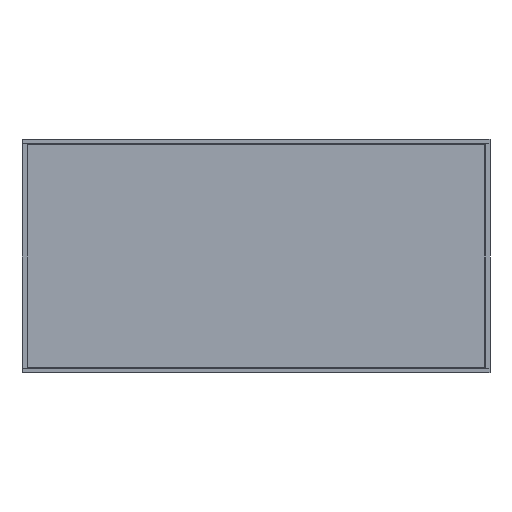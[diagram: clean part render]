
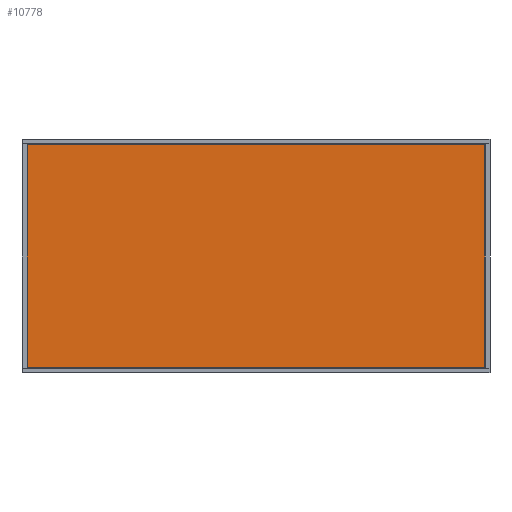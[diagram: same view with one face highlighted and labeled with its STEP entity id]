
A CAD part, left-side view. The second image highlights one B-rep face of the part: STEP entity #10778.
In plain terms, the highlighted planar face has unit normal (-1, 0, 0) as drawn and (0, -1, 0) by its records, which use the part's own axes.
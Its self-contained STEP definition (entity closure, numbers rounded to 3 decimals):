
#578=FACE_OUTER_BOUND($,#1134,.T.);
#1134=EDGE_LOOP($,(#8115,#8116,#8117,#8118));
#2080=LINE($,#15423,#3486);
#2088=LINE($,#15438,#3494);
#2089=LINE($,#15440,#3495);
#2090=LINE($,#15441,#3496);
#3486=VECTOR($,#12700,980.);
#3494=VECTOR($,#12712,980.);
#3495=VECTOR($,#12715,1980.);
#3496=VECTOR($,#12716,1980.);
#4706=VERTEX_POINT($,#15420);
#4707=VERTEX_POINT($,#15422);
#4711=VERTEX_POINT($,#15434);
#4712=VERTEX_POINT($,#15436);
#5948=EDGE_CURVE($,#4706,#4707,#2080,.T.);
#5956=EDGE_CURVE($,#4711,#4712,#2088,.T.);
#5957=EDGE_CURVE($,#4706,#4711,#2089,.T.);
#5958=EDGE_CURVE($,#4707,#4712,#2090,.T.);
#8115=ORIENTED_EDGE($,*,*,#5957,.T.);
#8116=ORIENTED_EDGE($,*,*,#5956,.T.);
#8117=ORIENTED_EDGE($,*,*,#5958,.F.);
#8118=ORIENTED_EDGE($,*,*,#5948,.F.);
#10307=PLANE($,#11357);
#10778=ADVANCED_FACE($,(#578),#10307,.T.);
#11357=AXIS2_PLACEMENT_3D($,#15439,#12713,#12714);
#12700=DIRECTION($,(0.,0.,1.));
#12712=DIRECTION($,(0.,0.,1.));
#12713=DIRECTION('center_axis',(0.,-1.,0.));
#12714=DIRECTION('ref_axis',(1.,0.,0.));
#12715=DIRECTION($,(1.,0.,0.));
#12716=DIRECTION($,(1.,0.,0.));
#15420=CARTESIAN_POINT('',(0.,0.,0.));
#15422=CARTESIAN_POINT('',(0.,0.,980.));
#15423=CARTESIAN_POINT($,(0.,0.,0.));
#15434=CARTESIAN_POINT('',(1980.,0.,0.));
#15436=CARTESIAN_POINT('',(1980.,0.,980.));
#15438=CARTESIAN_POINT($,(1980.,0.,0.));
#15439=CARTESIAN_POINT('Origin',(0.,0.,0.));
#15440=CARTESIAN_POINT($,(0.,0.,0.));
#15441=CARTESIAN_POINT($,(0.,0.,980.));
